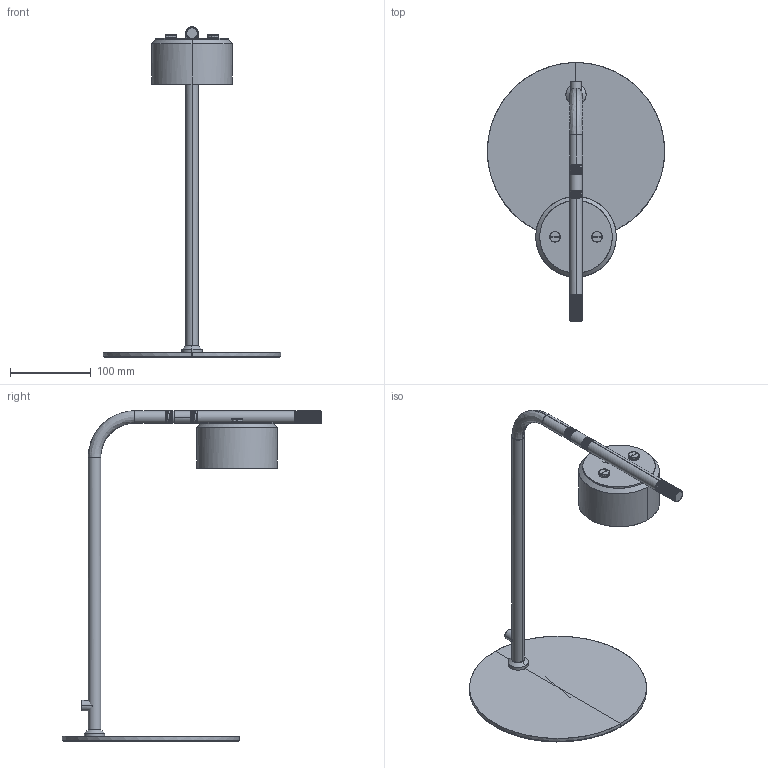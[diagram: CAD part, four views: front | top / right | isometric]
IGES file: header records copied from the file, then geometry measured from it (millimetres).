
Start section: SolidWorks IGES file using analytic representation for surfaces
Global section: file name: C:\Users\adrian\Desktop\Nueva Coleccion Septiembre 2026\HOREO\HOREO_S1367\HOREO_S1367.IGS; native system: SolidWorks 2023; preprocessor: SolidWorks 2023; author: adrian; date: 260616.104540; units: millimetre
Bounding box: 219.95 x 322 x 409.95 mm (x, y, z)
Surface area: 306765 mm2 (no closed solid volume)
Topology: 0 solids, 0 shells, 695 faces, 5284 edges, 5252 vertices
Faces by surface type: bspline 695
